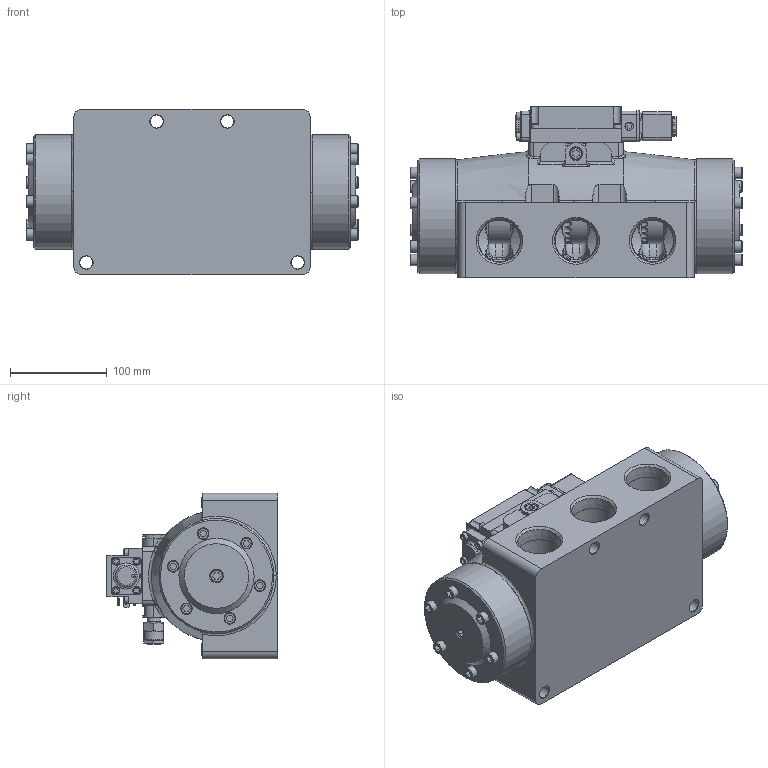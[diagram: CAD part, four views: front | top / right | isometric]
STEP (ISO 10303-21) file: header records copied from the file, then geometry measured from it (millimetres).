
FILE_DESCRIPTION(/* description */ (''),/* implementation_level */ '2;1');
FILE_NAME(/* name */ 'D:\Website Files\stp\Valves\Standard\ESO\ESO12H.stp',/* time_stamp */ '2015-03-20T12:07:25-04:00',/* author */ ('RMcKenna'),/* organization */ (''),/* preprocessor_version */ 'ST-DEVELOPER v15.6',/* originating_system */ 'Autodesk Inventor 2015',/* authorisation */ '');
FILE_SCHEMA (('AUTOMOTIVE_DESIGN { 1 0 10303 214 3 1 1 }'));
Products named in the file (1): Part14
Bounding box: 343.84 x 177.77 x 171.45 mm (x, y, z)
Volume: 4432904.6 mm3; surface area: 549202.4 mm2
Topology: 2 solids, 59 shells, 2548 faces, 6249 edges, 4026 vertices
Faces by surface type: plane 1151, cylinder 619, cone 338, bspline 223, torus 210, sphere 7
Full cylindrical faces by diameter (mm): 1.3 x1, 1.5 x2, 1.651 x2, 2.007 x2, 2.032 x8, 2.261 x2, 2.35 x4, 2.5 x1, 2.778 x2, 2.8 x1, 2.819 x1, 3 x4, 3.048 x2, 3.175 x10, 3.4 x1, 3.683 x12, 3.861 x2, 4.191 x2, 4.305 x1, 4.366 x2, 4.369 x3, 4.762 x2, 4.763 x5, 4.826 x12, 4.953 x1, 5.15 x4, 5.156 x8, 5.159 x4, 5.5 x1, 5.944 x2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
Entity records: 82061 total; most frequent: CARTESIAN_POINT 24361, DIRECTION 11044, ORIENTED_EDGE 10786, EDGE_CURVE 5391, AXIS2_PLACEMENT_3D 4269, VERTEX_POINT 3763, EDGE_LOOP 3448, FACE_OUTER_BOUND 2547
